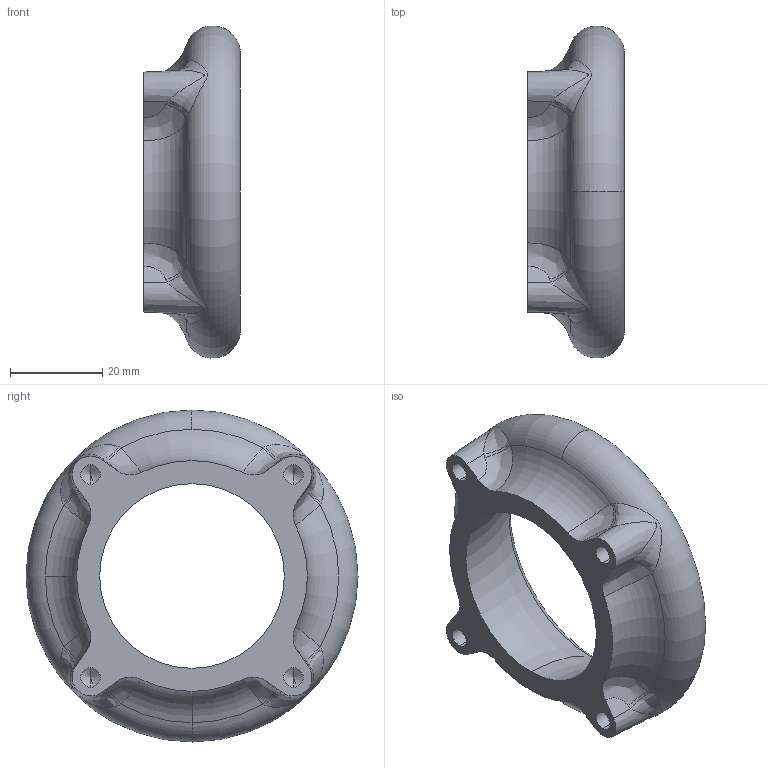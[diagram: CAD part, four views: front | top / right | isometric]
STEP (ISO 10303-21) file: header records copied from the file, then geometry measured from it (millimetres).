
FILE_DESCRIPTION (( 'STEP AP203' ), '1' );
FILE_NAME ('Lehmann turbo manifold MX-5 Miata F40 velocity stack.STEP', '2025-03-15T19:08:37', ( '' ), ( '' ), 'SwSTEP 2.0', 'SolidWorks 2019', '' );
FILE_SCHEMA (( 'CONFIG_CONTROL_DESIGN' ));
Length unit declared in the file: millimetre
Products named in the file (1): Lehmann turbo manifold MX-5 Miata F40 velocity stack
Bounding box: 21 x 71.96 x 71.96 mm (x, y, z)
Volume: 35041.9 mm3; surface area: 11315.9 mm2
Topology: 1 solids, 1 shells, 61 faces, 153 edges, 89 vertices
Faces by surface type: bspline 20, cone 14, torus 10, plane 9, cylinder 8
Entity records: 3603 total; most frequent: CARTESIAN_POINT 2242, ORIENTED_EDGE 290, DIRECTION 240, EDGE_CURVE 145, AXIS2_PLACEMENT_3D 103, VERTEX_POINT 89, EDGE_LOOP 66, ADVANCED_FACE 61
